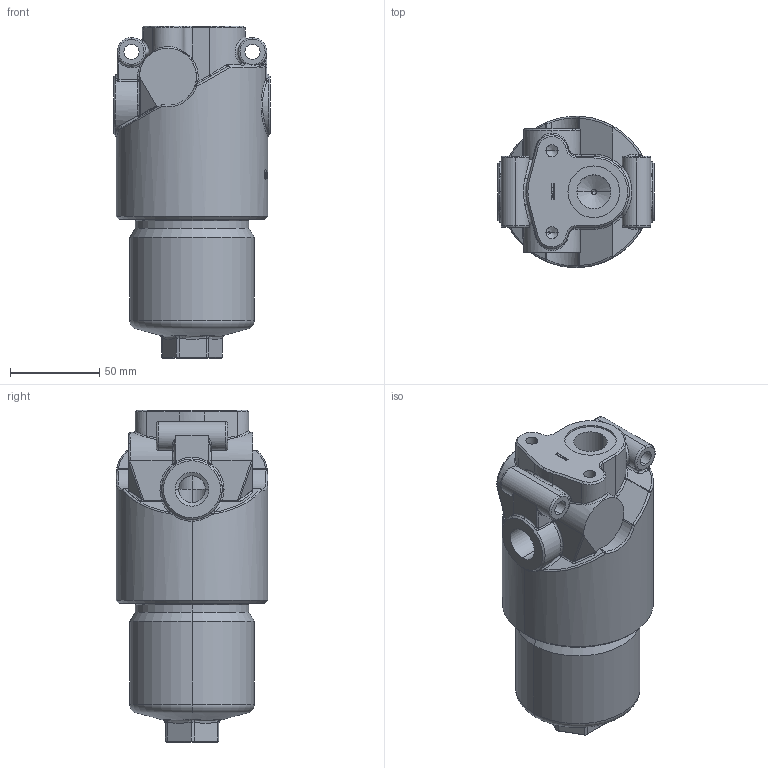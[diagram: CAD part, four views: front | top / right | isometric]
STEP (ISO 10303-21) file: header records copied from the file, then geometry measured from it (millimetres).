
FILE_DESCRIPTION (( 'STEP AP214' ), '1' );
FILE_NAME ('HMM 281 (3D).STEP', '2019-01-10T11:57:40', ( 'Hidtek' ), ( '' ), 'SwSTEP 2.0', 'SolidWorks 2016', '' );
FILE_SCHEMA (( 'AUTOMOTIVE_DESIGN' ));
Length unit declared in the file: millimetre
Products named in the file (1): HMM 281 (3D)
Bounding box: 88 x 85 x 186.5 mm (x, y, z)
Volume: 549252.4 mm3; surface area: 106699.6 mm2
Topology: 2 solids, 2 shells, 549 faces, 1379 edges, 842 vertices
Faces by surface type: plane 204, cylinder 129, bspline 110, cone 51, torus 41, sphere 14
Entity records: 32105 total; most frequent: CARTESIAN_POINT 13993, ORIENTED_EDGE 2710, DIRECTION 2239, EDGE_CURVE 1355, AXIS2_PLACEMENT_3D 842, VERTEX_POINT 838, EDGE_LOOP 585, VECTOR 555
